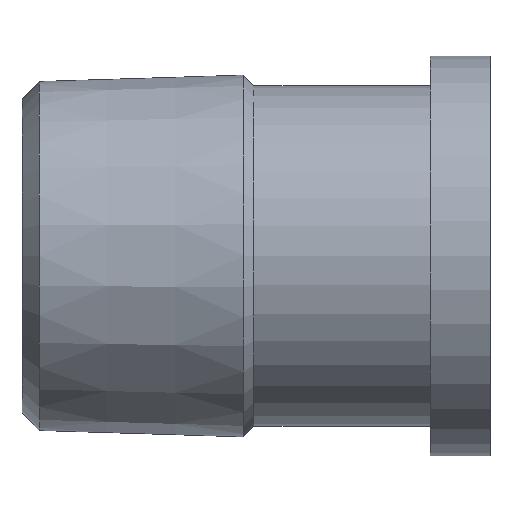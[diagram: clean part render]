
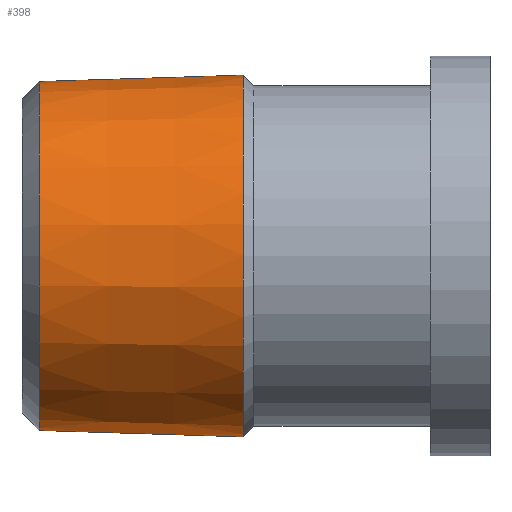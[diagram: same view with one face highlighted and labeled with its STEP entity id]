
A CAD part, top view. The second image highlights one B-rep face of the part: STEP entity #398.
In plain terms, the highlighted conical face has half-angle 1.79 degrees and reference radius 10.553 mm.
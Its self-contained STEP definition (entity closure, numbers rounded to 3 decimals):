
#364=CARTESIAN_POINT('',(-26.5,10.252,0.0));
#365=VERTEX_POINT('',#364);
#366=CARTESIAN_POINT('',(-26.5,0.0,0.0));
#367=DIRECTION('',(1.0,0.0,0.0));
#368=DIRECTION('',(0.0,1.0,0.0));
#369=AXIS2_PLACEMENT_3D('',#366,#367,#368);
#370=CIRCLE('',#369,10.252);
#371=EDGE_CURVE('',#365,#365,#370,.T.);
#379=CARTESIAN_POINT('',(-16.9,0.0,0.0));
#380=DIRECTION('',(1.0,0.0,0.0));
#381=DIRECTION('',(0.0,1.0,0.0));
#382=AXIS2_PLACEMENT_3D('',#379,#380,#381);
#383=CONICAL_SURFACE('',#382,10.553,1.79);
#384=ORIENTED_EDGE('',*,*,#371,.T.);
#385=EDGE_LOOP('',(#384));
#386=FACE_OUTER_BOUND('',#385,.T.);
#387=CARTESIAN_POINT('',(-14.5,10.628,0.0));
#388=VERTEX_POINT('',#387);
#389=CARTESIAN_POINT('',(-14.5,0.0,0.0));
#390=DIRECTION('',(1.0,0.0,0.0));
#391=DIRECTION('',(0.0,1.0,0.0));
#392=AXIS2_PLACEMENT_3D('',#389,#390,#391);
#393=CIRCLE('',#392,10.628);
#394=EDGE_CURVE('',#388,#388,#393,.T.);
#395=ORIENTED_EDGE('',*,*,#394,.F.);
#396=EDGE_LOOP('',(#395));
#397=FACE_BOUND('',#396,.T.);
#398=ADVANCED_FACE('',(#386,#397),#383,.T.);
